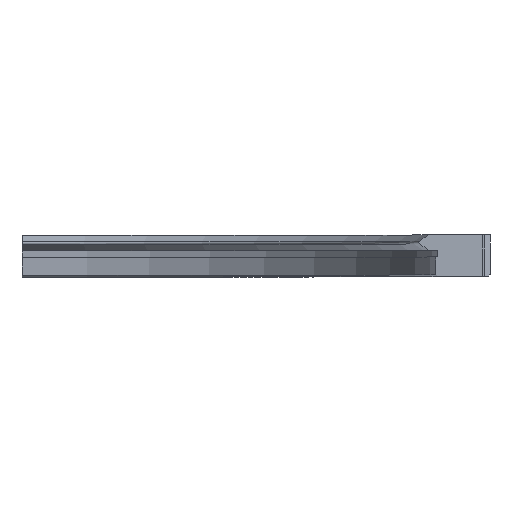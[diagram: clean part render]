
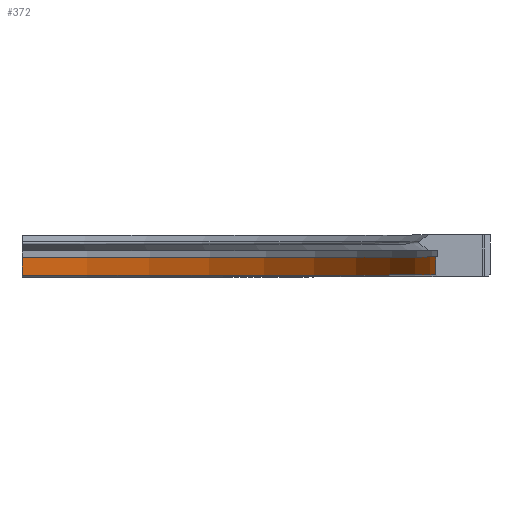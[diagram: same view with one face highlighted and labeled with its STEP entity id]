
A CAD part, top view. The second image highlights one B-rep face of the part: STEP entity #372.
In plain terms, the highlighted cylindrical face has radius 123 mm (diameter 246 mm), a partial arc.
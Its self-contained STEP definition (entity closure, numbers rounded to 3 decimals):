
#372 = ADVANCED_FACE( '', ( #1114 ), #1115, .F. );
#1114 = FACE_OUTER_BOUND( '', #1990, .T. );
#1115 = CYLINDRICAL_SURFACE( '', #1991, 123. );
#1990 = EDGE_LOOP( '', ( #5163, #5164, #5165, #5166 ) );
#1991 = AXIS2_PLACEMENT_3D( '', #5167, #5168, #5169 );
#5163 = ORIENTED_EDGE( '', *, *, #7316, .T. );
#5164 = ORIENTED_EDGE( '', *, *, #6850, .T. );
#5165 = ORIENTED_EDGE( '', *, *, #7317, .F. );
#5166 = ORIENTED_EDGE( '', *, *, #6125, .T. );
#5167 = CARTESIAN_POINT( '', ( 0., 0., 0. ) );
#5168 = DIRECTION( '', ( 0., 1., 0. ) );
#5169 = DIRECTION( '', ( 0., 0., -1. ) );
#6125 = EDGE_CURVE( '', #7416, #7414, #7417, .T. );
#6850 = EDGE_CURVE( '', #8851, #8849, #8852, .F. );
#7316 = EDGE_CURVE( '', #7414, #8851, #9446, .T. );
#7317 = EDGE_CURVE( '', #7416, #8849, #9447, .T. );
#7414 = VERTEX_POINT( '', #9562 );
#7416 = VERTEX_POINT( '', #9567 );
#7417 = LINE( '', #9568, #9569 );
#8849 = VERTEX_POINT( '', #11599 );
#8851 = VERTEX_POINT( '', #11602 );
#8852 = LINE( '', #11603, #11604 );
#9446 = CIRCLE( '', #12925, 123. );
#9447 = CIRCLE( '', #12926, 123. );
#9562 = CARTESIAN_POINT( '', ( 1., 0.5, -122.996 ) );
#9567 = CARTESIAN_POINT( '', ( 1., 5.75, -122.996 ) );
#9568 = CARTESIAN_POINT( '', ( 1., 0., -122.996 ) );
#9569 = VECTOR( '', #13008, 1000. );
#11599 = CARTESIAN_POINT( '', ( 122.996, 5.75, -1. ) );
#11602 = CARTESIAN_POINT( '', ( 122.996, 0.5, -1. ) );
#11603 = CARTESIAN_POINT( '', ( 122.996, 0., -1. ) );
#11604 = VECTOR( '', #14032, 1000. );
#12925 = AXIS2_PLACEMENT_3D( '', #14367, #14368, #14369 );
#12926 = AXIS2_PLACEMENT_3D( '', #14370, #14371, #14372 );
#13008 = DIRECTION( '', ( 0., -1., 0. ) );
#14032 = DIRECTION( '', ( 0., -1., 0. ) );
#14367 = CARTESIAN_POINT( '', ( 0., 0.5, 0. ) );
#14368 = DIRECTION( '', ( 0., -1., 0. ) );
#14369 = DIRECTION( '', ( 0., 0., -1. ) );
#14370 = CARTESIAN_POINT( '', ( 0., 5.75, 0. ) );
#14371 = DIRECTION( '', ( 0., -1., 0. ) );
#14372 = DIRECTION( '', ( 0., 0., -1. ) );
